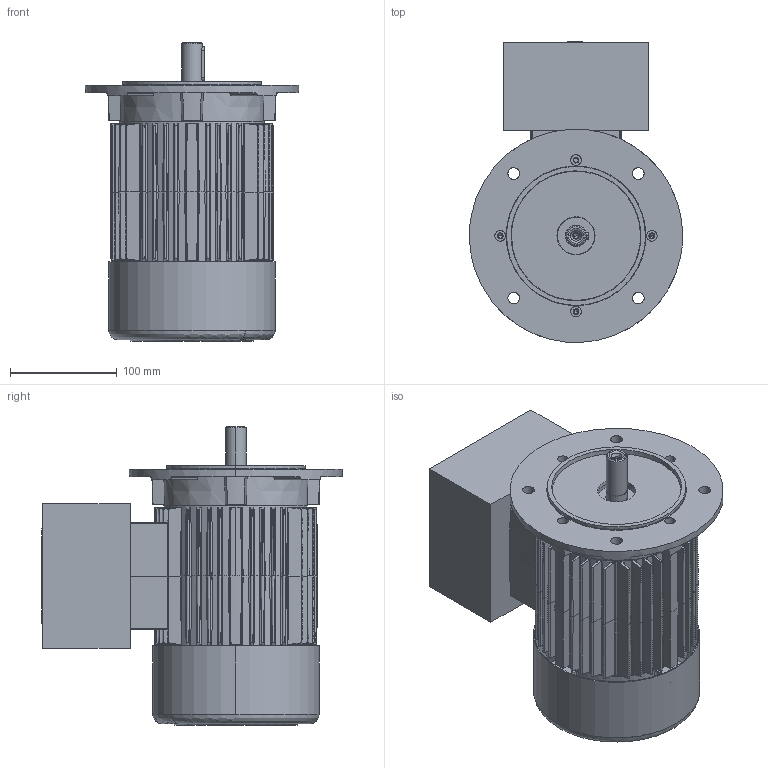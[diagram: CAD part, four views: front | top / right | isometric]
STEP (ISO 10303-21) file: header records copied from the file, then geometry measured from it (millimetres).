
FILE_DESCRIPTION (( 'STEP AP214' ), '1' );
FILE_NAME ('20.17497-B 5AT 80 B5 Exde STANDK.STEP', '2018-05-08T05:48:55', ( '' ), ( '' ), 'SwSTEP 2.0', 'SolidWorks 2017', '' );
FILE_SCHEMA (( 'AUTOMOTIVE_DESIGN' ));
Length unit declared in the file: millimetre
Products named in the file (1): 20.17497-B 5AT 80 B5 Exde STANDK
Bounding box: 199.9 x 281.8 x 280 mm (x, y, z)
Volume: 3333618.2 mm3; surface area: 526290.1 mm2
Topology: 4 solids, 12 shells, 938 faces, 2353 edges, 1486 vertices
Faces by surface type: plane 341, bspline 218, cone 210, cylinder 169
Entity records: 48059 total; most frequent: CARTESIAN_POINT 28244, ORIENTED_EDGE 4678, DIRECTION 2855, EDGE_CURVE 2339, VERTEX_POINT 1486, B_SPLINE_CURVE_WITH_KNOTS 1229, AXIS2_PLACEMENT_3D 1048, EDGE_LOOP 1017
